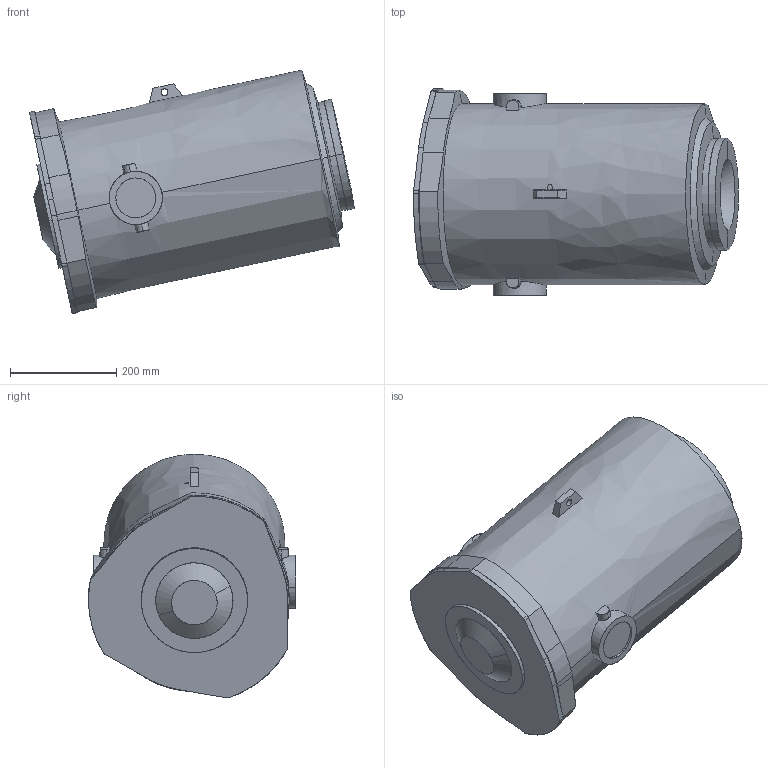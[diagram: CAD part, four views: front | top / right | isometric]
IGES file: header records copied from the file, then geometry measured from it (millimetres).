
Start section: SolidWorks IGES file using analytic representation for surfaces
Global section: file name: C:\Data\SAP_DOC\LW\IRB 6720\IRB6720-LID-SW_140kg-320_OC_01_SW_J\IRB6720-LID-SW_140kg-320_OC_01_IGES_J\IRB6720-LID_140kg-320_OC_00_CYL_CAD.igs; native system: SolidWorks 2024; preprocessor: SolidWorks 2024; author: SEJOVAS3; date: 260610.140956; units: millimetre
Bounding box: 610.86 x 389 x 457.92 mm (x, y, z)
Surface area: 920113.6 mm2 (no closed solid volume)
Topology: 0 solids, 0 shells, 124 faces, 2274 edges, 2274 vertices
Faces by surface type: revolution 71, bspline 53
